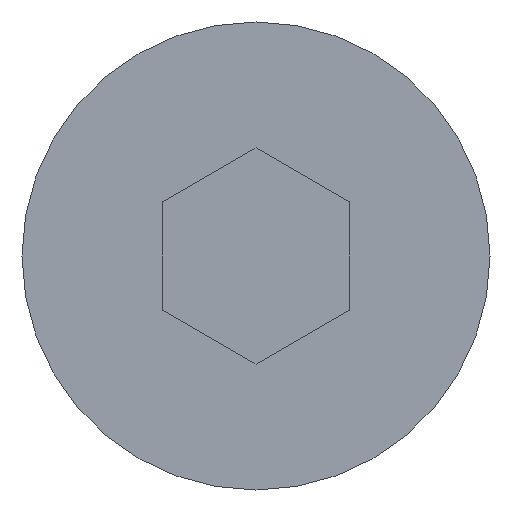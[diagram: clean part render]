
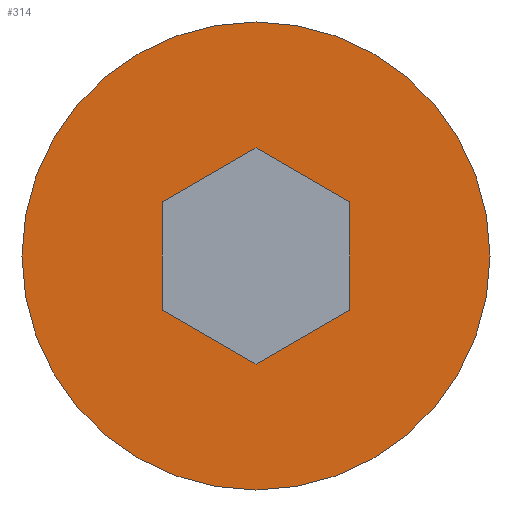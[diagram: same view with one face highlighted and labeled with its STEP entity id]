
A CAD part, front view. The second image highlights one B-rep face of the part: STEP entity #314.
In plain terms, the highlighted planar face has unit normal (0, -1, 0).
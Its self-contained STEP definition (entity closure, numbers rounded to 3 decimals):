
#61=CARTESIAN_POINT('',(0.,-4.,0.));
#62=DIRECTION('',(0.,-1.,0.));
#63=DIRECTION('',(1.,0.,0.));
#64=AXIS2_PLACEMENT_3D('',#61,#62,#63);
#66=CARTESIAN_POINT('',(0.,-4.,0.));
#67=DIRECTION('',(0.,-1.,0.));
#68=DIRECTION('',(-1.,0.,0.));
#69=AXIS2_PLACEMENT_3D('',#66,#67,#68);
#71=DIRECTION('',(0.,0.,1.));
#72=VECTOR('',#71,2.309);
#73=CARTESIAN_POINT('',(2.,-4.,-1.155));
#74=LINE('',#73,#72);
#75=DIRECTION('',(-0.866,0.,0.5));
#76=VECTOR('',#75,2.309);
#77=CARTESIAN_POINT('',(2.,-4.,1.155));
#78=LINE('',#77,#76);
#79=DIRECTION('',(-0.866,0.,-0.5));
#80=VECTOR('',#79,2.309);
#81=CARTESIAN_POINT('',(0.,-4.,2.309));
#82=LINE('',#81,#80);
#83=DIRECTION('',(0.,0.,-1.));
#84=VECTOR('',#83,2.309);
#85=CARTESIAN_POINT('',(-2.,-4.,1.155));
#86=LINE('',#85,#84);
#87=DIRECTION('',(0.866,0.,-0.5));
#88=VECTOR('',#87,2.309);
#89=CARTESIAN_POINT('',(-2.,-4.,-1.155));
#90=LINE('',#89,#88);
#91=DIRECTION('',(0.866,0.,0.5));
#92=VECTOR('',#91,2.309);
#93=CARTESIAN_POINT('',(0.,-4.,-2.309));
#94=LINE('',#93,#92);
#151=CARTESIAN_POINT('',(5.,-4.,0.));
#152=CARTESIAN_POINT('',(-5.,-4.,0.));
#153=VERTEX_POINT('',#151);
#154=VERTEX_POINT('',#152);
#171=CARTESIAN_POINT('',(2.,-4.,-1.155));
#172=CARTESIAN_POINT('',(2.,-4.,1.155));
#173=VERTEX_POINT('',#171);
#174=VERTEX_POINT('',#172);
#175=CARTESIAN_POINT('',(0.,-4.,2.309));
#176=VERTEX_POINT('',#175);
#177=CARTESIAN_POINT('',(-2.,-4.,1.155));
#178=VERTEX_POINT('',#177);
#179=CARTESIAN_POINT('',(-2.,-4.,-1.155));
#180=VERTEX_POINT('',#179);
#181=CARTESIAN_POINT('',(0.,-4.,-2.309));
#182=VERTEX_POINT('',#181);
#291=CARTESIAN_POINT('',(0.,-4.,0.));
#292=DIRECTION('',(0.,-1.,0.));
#293=DIRECTION('',(1.,0.,0.));
#294=AXIS2_PLACEMENT_3D('',#291,#292,#293);
#295=PLANE('',#294);
#296=ORIENTED_EDGE('',*,*,#271,.F.);
#297=ORIENTED_EDGE('',*,*,#285,.F.);
#298=EDGE_LOOP('',(#296,#297));
#299=FACE_OUTER_BOUND('',#298,.F.);
#301=ORIENTED_EDGE('',*,*,#300,.T.);
#303=ORIENTED_EDGE('',*,*,#302,.T.);
#305=ORIENTED_EDGE('',*,*,#304,.T.);
#307=ORIENTED_EDGE('',*,*,#306,.T.);
#309=ORIENTED_EDGE('',*,*,#308,.T.);
#311=ORIENTED_EDGE('',*,*,#310,.T.);
#312=EDGE_LOOP('',(#301,#303,#305,#307,#309,#311));
#313=FACE_BOUND('',#312,.F.);
#314=ADVANCED_FACE('',(#299,#313),#295,.T.);
#65=CIRCLE('',#64,5.);
#70=CIRCLE('',#69,5.);
#271=EDGE_CURVE('',#153,#154,#65,.T.);
#285=EDGE_CURVE('',#154,#153,#70,.T.);
#300=EDGE_CURVE('',#173,#174,#74,.T.);
#302=EDGE_CURVE('',#174,#176,#78,.T.);
#304=EDGE_CURVE('',#176,#178,#82,.T.);
#306=EDGE_CURVE('',#178,#180,#86,.T.);
#308=EDGE_CURVE('',#180,#182,#90,.T.);
#310=EDGE_CURVE('',#182,#173,#94,.T.);
